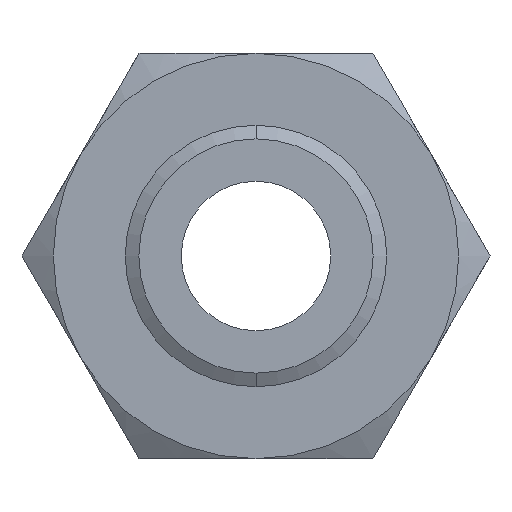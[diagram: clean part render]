
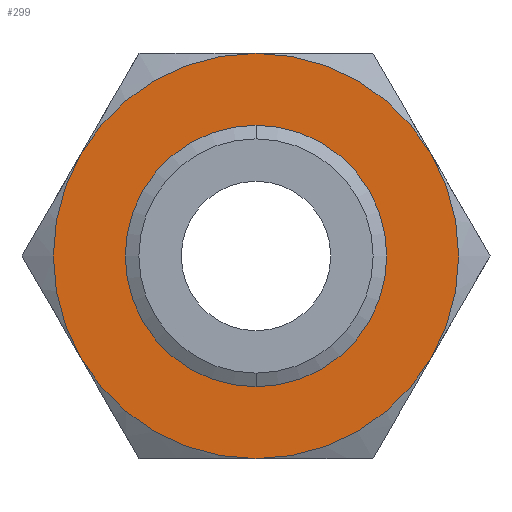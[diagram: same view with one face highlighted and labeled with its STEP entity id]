
A CAD part, front view. The second image highlights one B-rep face of the part: STEP entity #299.
In plain terms, the highlighted planar face has unit normal (0, -1, 0).
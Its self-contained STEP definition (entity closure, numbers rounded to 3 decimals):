
#249 = VERTEX_POINT ( 'NONE', #1172 ) ;
#250 = EDGE_LOOP ( 'NONE', ( #279, #276, #272, #259, #263, #334 ) ) ;
#257 = EDGE_CURVE ( 'NONE', #262, #258, #1164, .T. ) ;
#258 = VERTEX_POINT ( 'NONE', #1220 ) ;
#259 = ORIENTED_EDGE ( 'NONE', *, *, #257, .F. ) ;
#260 = EDGE_CURVE ( 'NONE', #361, #262, #1218, .T. ) ;
#262 = VERTEX_POINT ( 'NONE', #1210 ) ;
#263 = ORIENTED_EDGE ( 'NONE', *, *, #260, .F. ) ;
#270 = VERTEX_POINT ( 'NONE', #1205 ) ;
#271 = EDGE_CURVE ( 'NONE', #258, #270, #1204, .T. ) ;
#272 = ORIENTED_EDGE ( 'NONE', *, *, #271, .F. ) ;
#274 = EDGE_CURVE ( 'NONE', #270, #249, #1256, .T. ) ;
#275 = VERTEX_POINT ( 'NONE', #1251 ) ;
#276 = ORIENTED_EDGE ( 'NONE', *, *, #274, .F. ) ;
#279 = ORIENTED_EDGE ( 'NONE', *, *, #283, .F. ) ;
#283 = EDGE_CURVE ( 'NONE', #249, #275, #1233, .T. ) ;
#299 = ADVANCED_FACE ( 'NONE', ( #1314, #1313 ), #1312, .F. ) ;
#334 = ORIENTED_EDGE ( 'NONE', *, *, #459, .F. ) ;
#361 = VERTEX_POINT ( 'NONE', #1396 ) ;
#459 = EDGE_CURVE ( 'NONE', #275, #361, #1610, .T. ) ;
#460 = EDGE_LOOP ( 'NONE', ( #462, #461 ) ) ;
#461 = ORIENTED_EDGE ( 'NONE', *, *, #477, .F. ) ;
#462 = ORIENTED_EDGE ( 'NONE', *, *, #749, .F. ) ;
#477 = EDGE_CURVE ( 'NONE', #741, #750, #1637, .T. ) ;
#741 = VERTEX_POINT ( 'NONE', #2218 ) ;
#749 = EDGE_CURVE ( 'NONE', #750, #741, #2198, .T. ) ;
#750 = VERTEX_POINT ( 'NONE', #2193 ) ;
#1164 = CIRCLE ( 'NONE', #1224, 77.5 ) ;
#1172 = CARTESIAN_POINT ( 'NONE',  ( 0., 0., 77.5 ) ) ;
#1200 = DIRECTION ( 'NONE',  ( 0., 0., 1. ) ) ;
#1201 = DIRECTION ( 'NONE',  ( 0., 1., 0. ) ) ;
#1202 = CARTESIAN_POINT ( 'NONE',  ( 0., 0., 0. ) ) ;
#1203 = AXIS2_PLACEMENT_3D ( 'NONE', #1202, #1201, #1200 ) ;
#1204 = CIRCLE ( 'NONE', #1203, 77.5 ) ;
#1205 = CARTESIAN_POINT ( 'NONE',  ( -67.117, 0., 38.75 ) ) ;
#1210 = CARTESIAN_POINT ( 'NONE',  ( 0., 0., -77.5 ) ) ;
#1214 = DIRECTION ( 'NONE',  ( 0., 0., 1. ) ) ;
#1215 = DIRECTION ( 'NONE',  ( 0., 1., 0. ) ) ;
#1216 = CARTESIAN_POINT ( 'NONE',  ( 0., 0., 0. ) ) ;
#1217 = AXIS2_PLACEMENT_3D ( 'NONE', #1216, #1215, #1214 ) ;
#1218 = CIRCLE ( 'NONE', #1217, 77.5 ) ;
#1220 = CARTESIAN_POINT ( 'NONE',  ( -67.117, 0., -38.75 ) ) ;
#1221 = DIRECTION ( 'NONE',  ( 0., 0., 1. ) ) ;
#1222 = DIRECTION ( 'NONE',  ( 0., 1., 0. ) ) ;
#1223 = CARTESIAN_POINT ( 'NONE',  ( 0., 0., 0. ) ) ;
#1224 = AXIS2_PLACEMENT_3D ( 'NONE', #1223, #1222, #1221 ) ;
#1230 = DIRECTION ( 'NONE',  ( 0., 0., 1. ) ) ;
#1231 = DIRECTION ( 'NONE',  ( 0., 1., 0. ) ) ;
#1232 = AXIS2_PLACEMENT_3D ( 'NONE', #1240, #1231, #1230 ) ;
#1233 = CIRCLE ( 'NONE', #1232, 77.5 ) ;
#1240 = CARTESIAN_POINT ( 'NONE',  ( 0., 0., 0. ) ) ;
#1251 = CARTESIAN_POINT ( 'NONE',  ( 67.117, 0., 38.75 ) ) ;
#1252 = DIRECTION ( 'NONE',  ( 0., 0., 1. ) ) ;
#1253 = DIRECTION ( 'NONE',  ( 0., 1., 0. ) ) ;
#1254 = CARTESIAN_POINT ( 'NONE',  ( 0., 0., 0. ) ) ;
#1255 = AXIS2_PLACEMENT_3D ( 'NONE', #1254, #1253, #1252 ) ;
#1256 = CIRCLE ( 'NONE', #1255, 77.5 ) ;
#1307 = DIRECTION ( 'NONE',  ( 0., 0., 1. ) ) ;
#1308 = DIRECTION ( 'NONE',  ( 0., 1., 0. ) ) ;
#1310 = CARTESIAN_POINT ( 'NONE',  ( 44.745, 0., -77.5 ) ) ;
#1311 = AXIS2_PLACEMENT_3D ( 'NONE', #1310, #1308, #1307 ) ;
#1312 = PLANE ( 'NONE',  #1311 ) ;
#1313 = FACE_BOUND ( 'NONE', #460, .T. ) ;
#1314 = FACE_OUTER_BOUND ( 'NONE', #250, .T. ) ;
#1396 = CARTESIAN_POINT ( 'NONE',  ( 67.117, 0., -38.75 ) ) ;
#1606 = DIRECTION ( 'NONE',  ( 0., 0., 1. ) ) ;
#1607 = DIRECTION ( 'NONE',  ( 0., 1., 0. ) ) ;
#1608 = CARTESIAN_POINT ( 'NONE',  ( 0., 0., 0. ) ) ;
#1609 = AXIS2_PLACEMENT_3D ( 'NONE', #1608, #1607, #1606 ) ;
#1610 = CIRCLE ( 'NONE', #1609, 77.5 ) ;
#1633 = DIRECTION ( 'NONE',  ( 0., 0., -1. ) ) ;
#1634 = DIRECTION ( 'NONE',  ( 0., -1., 0. ) ) ;
#1635 = CARTESIAN_POINT ( 'NONE',  ( 0., 0., 0. ) ) ;
#1636 = AXIS2_PLACEMENT_3D ( 'NONE', #1635, #1634, #1633 ) ;
#1637 = CIRCLE ( 'NONE', #1636, 44.804 ) ;
#2193 = CARTESIAN_POINT ( 'NONE',  ( 0., 0., -44.804 ) ) ;
#2194 = DIRECTION ( 'NONE',  ( 0., 0., -1. ) ) ;
#2195 = DIRECTION ( 'NONE',  ( 0., -1., 0. ) ) ;
#2196 = CARTESIAN_POINT ( 'NONE',  ( 0., 0., 0. ) ) ;
#2197 = AXIS2_PLACEMENT_3D ( 'NONE', #2196, #2195, #2194 ) ;
#2198 = CIRCLE ( 'NONE', #2197, 44.804 ) ;
#2218 = CARTESIAN_POINT ( 'NONE',  ( 0., 0., 44.804 ) ) ;
